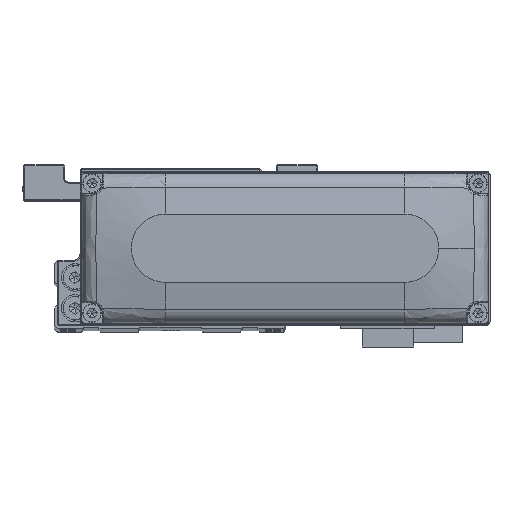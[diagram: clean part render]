
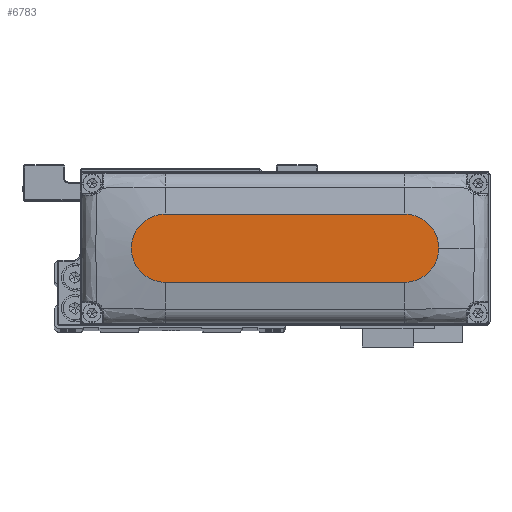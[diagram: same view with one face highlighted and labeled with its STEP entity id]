
A CAD part, top view. The second image highlights one B-rep face of the part: STEP entity #6783.
In plain terms, the highlighted planar face has unit normal (0, 0, 1).
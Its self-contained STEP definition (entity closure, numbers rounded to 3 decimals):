
#622 = DIRECTION ( 'NONE',  ( 0., 0., 1. ) ) ;
#758 = VERTEX_POINT ( 'NONE', #9367 ) ;
#2824 = VECTOR ( 'NONE', #23172, 1000. ) ;
#3198 = DIRECTION ( 'NONE',  ( 0., 0., 1. ) ) ;
#3566 = DIRECTION ( 'NONE',  ( 1., 0., 0. ) ) ;
#3651 = FACE_OUTER_BOUND ( 'NONE', #11550, .T. ) ;
#4305 = ORIENTED_EDGE ( 'NONE', *, *, #21879, .T. ) ;
#4668 = ORIENTED_EDGE ( 'NONE', *, *, #26024, .T. ) ;
#5445 = CARTESIAN_POINT ( 'NONE',  ( 35., 10., 28. ) ) ;
#6783 = ADVANCED_FACE ( 'NONE', ( #3651 ), #16031, .T. ) ;
#6991 = CIRCLE ( 'NONE', #29681, 10. ) ;
#7465 = ORIENTED_EDGE ( 'NONE', *, *, #20306, .T. ) ;
#9367 = CARTESIAN_POINT ( 'NONE',  ( 35., -10., 28. ) ) ;
#9546 = DIRECTION ( 'NONE',  ( 1., 0., 0. ) ) ;
#10210 = EDGE_CURVE ( 'NONE', #758, #21283, #6991, .T. ) ;
#10781 = CARTESIAN_POINT ( 'NONE',  ( -35., -10., 28. ) ) ;
#10820 = ORIENTED_EDGE ( 'NONE', *, *, #10210, .T. ) ;
#11185 = LINE ( 'NONE', #23563, #38065 ) ;
#11358 = CARTESIAN_POINT ( 'NONE',  ( 45., 0., 28. ) ) ;
#11550 = EDGE_LOOP ( 'NONE', ( #4668, #4305, #7465, #10820, #13784 ) ) ;
#12997 = DIRECTION ( 'NONE',  ( 1., 0., 0. ) ) ;
#13784 = ORIENTED_EDGE ( 'NONE', *, *, #30399, .T. ) ;
#14392 = CARTESIAN_POINT ( 'NONE',  ( -35., -10., 28. ) ) ;
#14996 = VERTEX_POINT ( 'NONE', #5445 ) ;
#15576 = DIRECTION ( 'NONE',  ( 1., 0., 0. ) ) ;
#15875 = AXIS2_PLACEMENT_3D ( 'NONE', #30989, #3198, #15576 ) ;
#16031 = PLANE ( 'NONE',  #19031 ) ;
#18284 = CARTESIAN_POINT ( 'NONE',  ( -35., 10., 28. ) ) ;
#18990 = CARTESIAN_POINT ( 'NONE',  ( 35., 0., 28. ) ) ;
#19031 = AXIS2_PLACEMENT_3D ( 'NONE', #28426, #622, #12997 ) ;
#20306 = EDGE_CURVE ( 'NONE', #31860, #758, #38544, .T. ) ;
#21283 = VERTEX_POINT ( 'NONE', #11358 ) ;
#21879 = EDGE_CURVE ( 'NONE', #38927, #31860, #33358, .T. ) ;
#22525 = AXIS2_PLACEMENT_3D ( 'NONE', #24974, #37316, #9546 ) ;
#23172 = DIRECTION ( 'NONE',  ( 1., 0., 0. ) ) ;
#23563 = CARTESIAN_POINT ( 'NONE',  ( -35., 10., 28. ) ) ;
#24974 = CARTESIAN_POINT ( 'NONE',  ( 35., 0., 28. ) ) ;
#26024 = EDGE_CURVE ( 'NONE', #14996, #38927, #11185, .T. ) ;
#28426 = CARTESIAN_POINT ( 'NONE',  ( 0., 0., 28. ) ) ;
#29681 = AXIS2_PLACEMENT_3D ( 'NONE', #18990, #31361, #3566 ) ;
#30399 = EDGE_CURVE ( 'NONE', #21283, #14996, #40014, .T. ) ;
#30989 = CARTESIAN_POINT ( 'NONE',  ( -35., 0., 28. ) ) ;
#31361 = DIRECTION ( 'NONE',  ( 0., 0., 1. ) ) ;
#31860 = VERTEX_POINT ( 'NONE', #14392 ) ;
#33358 = CIRCLE ( 'NONE', #15875, 10. ) ;
#35912 = DIRECTION ( 'NONE',  ( -1., 0., 0. ) ) ;
#37316 = DIRECTION ( 'NONE',  ( 0., 0., 1. ) ) ;
#38065 = VECTOR ( 'NONE', #35912, 1000. ) ;
#38544 = LINE ( 'NONE', #10781, #2824 ) ;
#38927 = VERTEX_POINT ( 'NONE', #18284 ) ;
#40014 = CIRCLE ( 'NONE', #22525, 10. ) ;
